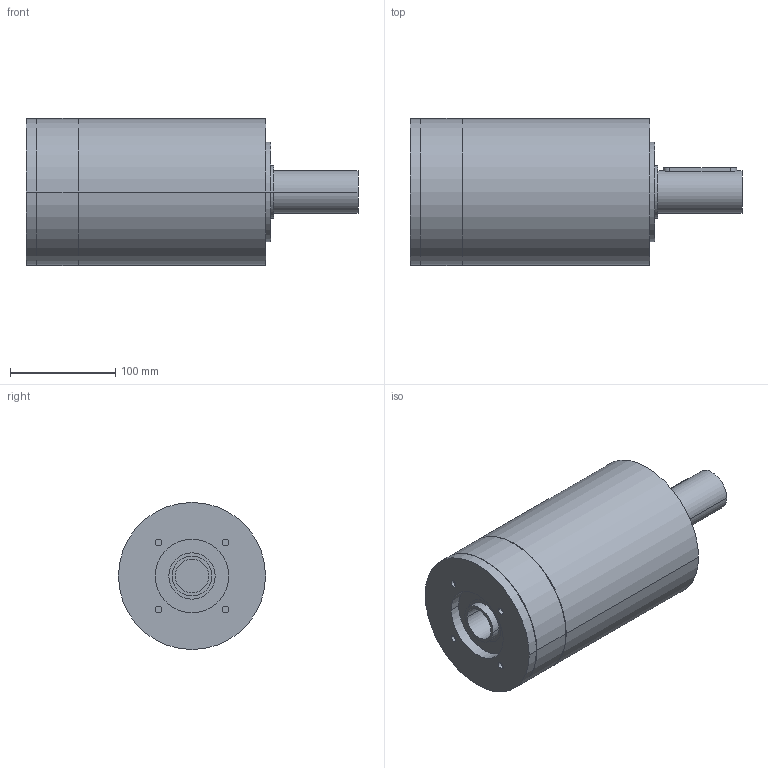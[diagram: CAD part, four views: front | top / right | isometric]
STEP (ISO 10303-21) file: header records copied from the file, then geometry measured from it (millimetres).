
FILE_DESCRIPTION(('CoCreate Modeling STEP Export'),'2;1');
FILE_NAME('GPR150_ig-9-12-16-20-28-35_40_B14_32_P15.stp','2014-08-19T17:04:07',(''),(''),'CoCreate Modeling STEP processor for AP214 (Solid Model)','CoCreate Modeling 16.00C 25-Feb-2009 (C) Parametric Technology GmbH','');
FILE_SCHEMA(('AUTOMOTIVE_DESIGN { 1 0 10303 214 1 1 1 1 }'));
Length unit declared in the file: millimetre
Products named in the file (2): GPR150_ig-9-12-16-20-28-35_40_B14_32_P15
Assembly tree (1 placements, depth 2):
  GPR150_ig-9-12-16-20-28-35_40_B14_32_P15
    GPR150_ig-9-12-16-20-28-35_40_B14_32_P15
Bounding box: 316 x 140 x 140 mm (x, y, z)
Volume: 3545896 mm3; surface area: 161522.7 mm2
Topology: 1 solids, 1 shells, 80 faces, 198 edges, 140 vertices
Faces by surface type: cylinder 48, plane 26, cone 6
Entity records: 2030 total; most frequent: ORIENTED_EDGE 392, CARTESIAN_POINT 389, DIRECTION 262, EDGE_CURVE 196, VERTEX_POINT 140, EDGE_LOOP 102, AXIS2_PLACEMENT_3D 101, FACE_OUTER_BOUND 80
